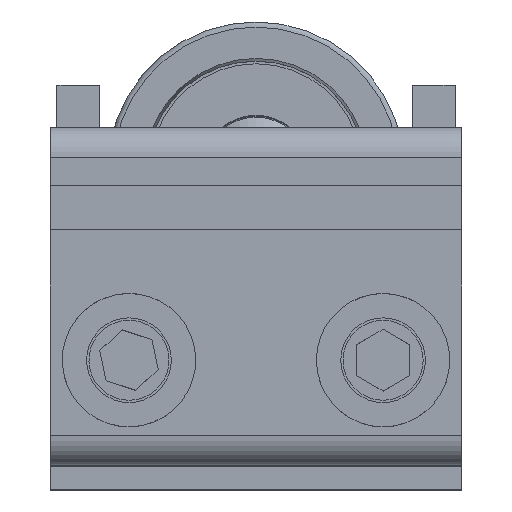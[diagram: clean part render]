
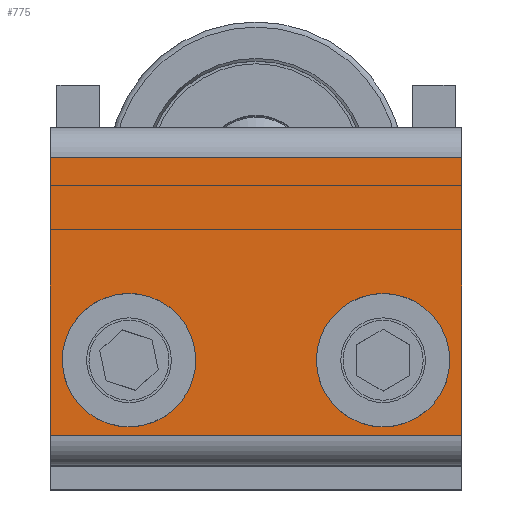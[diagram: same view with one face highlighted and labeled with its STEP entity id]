
A CAD part, top view. The second image highlights one B-rep face of the part: STEP entity #775.
In plain terms, the highlighted planar face has unit normal (0, 0, 1) as drawn and (0, 0, -1) by its records, which use the part's own axes.
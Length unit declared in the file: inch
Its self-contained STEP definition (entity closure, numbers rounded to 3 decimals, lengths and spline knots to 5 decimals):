
#435=DIRECTION('',(-1.,0.,0.));
#436=VECTOR('',#435,1.215);
#437=CARTESIAN_POINT('',(0.6075,0.41,-0.18));
#438=LINE('',#437,#436);
#469=DIRECTION('',(0.,-1.,0.));
#470=VECTOR('',#469,0.82);
#471=CARTESIAN_POINT('',(-0.6075,0.41,-0.18));
#472=LINE('',#471,#470);
#495=DIRECTION('',(0.,-1.,0.));
#496=VECTOR('',#495,0.82);
#497=CARTESIAN_POINT('',(0.6075,0.41,-0.18));
#498=LINE('',#497,#496);
#499=CARTESIAN_POINT('',(0.375,-0.188,-0.18));
#500=DIRECTION('',(0.,0.,1.));
#501=DIRECTION('',(1.,0.,0.));
#502=AXIS2_PLACEMENT_3D('',#499,#500,#501);
#504=CARTESIAN_POINT('',(0.375,-0.188,-0.18));
#505=DIRECTION('',(0.,0.,1.));
#506=DIRECTION('',(-1.,0.,0.));
#507=AXIS2_PLACEMENT_3D('',#504,#505,#506);
#509=CARTESIAN_POINT('',(-0.375,-0.188,-0.18));
#510=DIRECTION('',(0.,0.,1.));
#511=DIRECTION('',(1.,0.,0.));
#512=AXIS2_PLACEMENT_3D('',#509,#510,#511);
#514=CARTESIAN_POINT('',(-0.375,-0.188,-0.18));
#515=DIRECTION('',(0.,0.,1.));
#516=DIRECTION('',(-1.,0.,0.));
#517=AXIS2_PLACEMENT_3D('',#514,#515,#516);
#519=DIRECTION('',(1.,0.,0.));
#520=VECTOR('',#519,1.215);
#521=CARTESIAN_POINT('',(-0.6075,-0.41,-0.18));
#522=LINE('',#521,#520);
#615=CARTESIAN_POINT('',(-0.6075,-0.41,-0.18));
#616=CARTESIAN_POINT('',(0.6075,-0.41,-0.18));
#617=VERTEX_POINT('',#615);
#618=VERTEX_POINT('',#616);
#630=CARTESIAN_POINT('',(-0.5,-0.188,-0.18));
#632=VERTEX_POINT('',#630);
#636=CARTESIAN_POINT('',(-0.25,-0.188,-0.18));
#638=VERTEX_POINT('',#636);
#639=CARTESIAN_POINT('',(-0.6075,0.41,-0.18));
#640=VERTEX_POINT('',#639);
#653=CARTESIAN_POINT('',(0.25,-0.188,-0.18));
#654=CARTESIAN_POINT('',(0.5,-0.188,-0.18));
#655=VERTEX_POINT('',#653);
#656=VERTEX_POINT('',#654);
#665=CARTESIAN_POINT('',(0.6075,0.41,-0.18));
#666=VERTEX_POINT('',#665);
#751=CARTESIAN_POINT('',(0.6075,0.5,-0.18));
#752=DIRECTION('',(0.,0.,1.));
#753=DIRECTION('',(0.,-1.,0.));
#754=AXIS2_PLACEMENT_3D('',#751,#752,#753);
#755=PLANE('',#754);
#756=ORIENTED_EDGE('',*,*,#703,.F.);
#757=ORIENTED_EDGE('',*,*,#678,.T.);
#758=ORIENTED_EDGE('',*,*,#730,.T.);
#760=ORIENTED_EDGE('',*,*,#759,.T.);
#761=EDGE_LOOP('',(#756,#757,#758,#760));
#762=FACE_OUTER_BOUND('',#761,.F.);
#764=ORIENTED_EDGE('',*,*,#763,.F.);
#766=ORIENTED_EDGE('',*,*,#765,.F.);
#767=EDGE_LOOP('',(#764,#766));
#768=FACE_BOUND('',#767,.F.);
#770=ORIENTED_EDGE('',*,*,#769,.F.);
#772=ORIENTED_EDGE('',*,*,#771,.F.);
#773=EDGE_LOOP('',(#770,#772));
#774=FACE_BOUND('',#773,.F.);
#503=CIRCLE('',#502,0.125);
#508=CIRCLE('',#507,0.125);
#513=CIRCLE('',#512,0.125);
#518=CIRCLE('',#517,0.125);
#678=EDGE_CURVE('',#666,#640,#438,.T.);
#703=EDGE_CURVE('',#666,#618,#498,.T.);
#730=EDGE_CURVE('',#640,#617,#472,.T.);
#759=EDGE_CURVE('',#617,#618,#522,.T.);
#763=EDGE_CURVE('',#656,#655,#503,.T.);
#765=EDGE_CURVE('',#655,#656,#508,.T.);
#769=EDGE_CURVE('',#638,#632,#513,.T.);
#771=EDGE_CURVE('',#632,#638,#518,.T.);
#775=ADVANCED_FACE('',(#762,#768,#774),#755,.F.);
